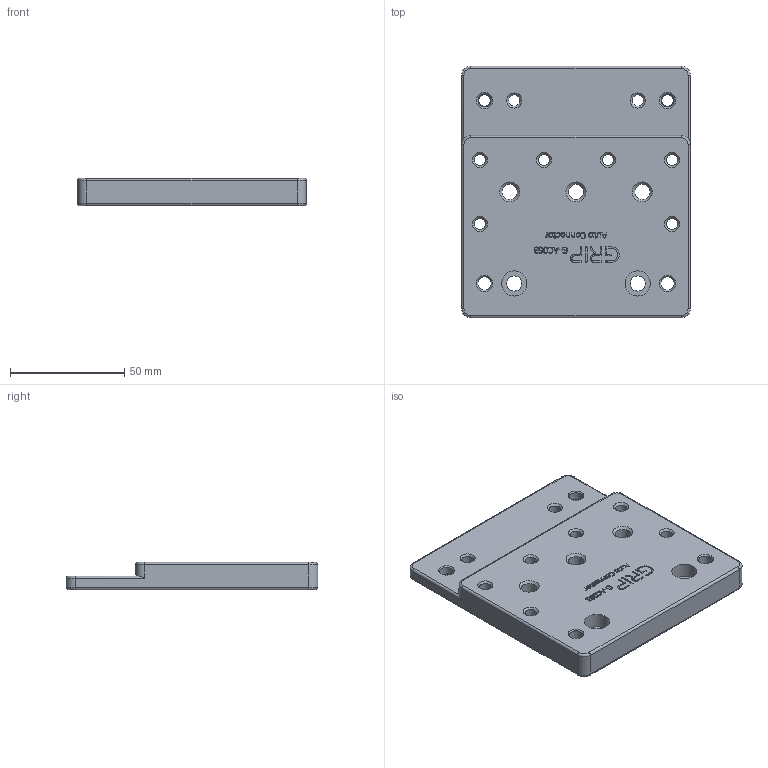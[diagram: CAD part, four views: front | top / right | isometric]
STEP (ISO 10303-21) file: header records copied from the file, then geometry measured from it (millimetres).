
FILE_DESCRIPTION(/* description */ (''),/* implementation_level */ '2;1');
FILE_NAME(/* name */ '3D ZG-AC063-DP.stp',/* time_stamp */ '2023-10-23T08:09:11+02:00',/* author */ ('vbednarz'),/* organization */ (''),/* preprocessor_version */ 'ST-DEVELOPER v20',/* originating_system */ 'Autodesk Inventor 2024',/* authorisation */ '');
FILE_SCHEMA (('AUTOMOTIVE_DESIGN { 1 0 10303 214 3 1 1 }'));
Length unit declared in the file: millimetre
Products named in the file (1): 3D ZG-AC063-DP
Bounding box: 100 x 110 x 12 mm (x, y, z)
Volume: 107720.6 mm3; surface area: 28594.9 mm2
Topology: 1 solids, 1 shells, 427 faces, 1113 edges, 731 vertices
Faces by surface type: bspline 190, plane 137, cylinder 60, cone 30, torus 10
Full cylindrical faces by diameter (mm): 0.651 x1, 5 x10, 6 x4, 6.6 x2, 6.75 x3, 11 x2
Entity records: 17578 total; most frequent: CARTESIAN_POINT 7694, ORIENTED_EDGE 2226, DIRECTION 1382, EDGE_CURVE 1113, VERTEX_POINT 731, LINE 556, VECTOR 556, EDGE_LOOP 504
